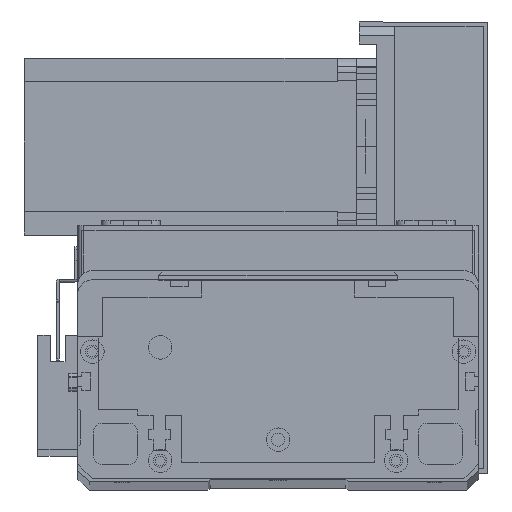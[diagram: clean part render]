
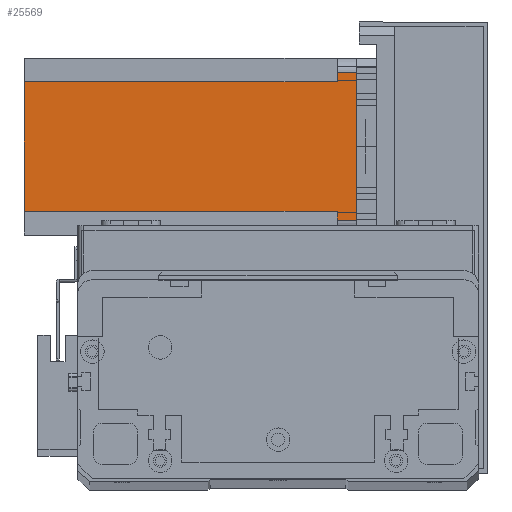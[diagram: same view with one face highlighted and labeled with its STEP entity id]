
A CAD part, top view. The second image highlights one B-rep face of the part: STEP entity #25569.
In plain terms, the highlighted planar face has unit normal (0, 0, 1) as drawn and (0, 1, 0) by its records, which use the part's own axes.
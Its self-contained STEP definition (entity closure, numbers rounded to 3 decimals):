
#785 = CARTESIAN_POINT ( 'NONE',  ( 52., 60., -112.5 ) ) ;
#1102 = CARTESIAN_POINT ( 'NONE',  ( 55., 60., -6.5 ) ) ;
#1265 = CARTESIAN_POINT ( 'NONE',  ( 8., 60., -6.5 ) ) ;
#1338 = CARTESIAN_POINT ( 'NONE',  ( 0., 60., -112.5 ) ) ;
#1579 = DIRECTION ( 'NONE',  ( 0., 0., 1. ) ) ;
#1829 = VECTOR ( 'NONE', #24005, 1000. ) ;
#2341 = LINE ( 'NONE', #1338, #26114 ) ;
#2658 = CARTESIAN_POINT ( 'NONE',  ( 8., 60., -6.5 ) ) ;
#3211 = VERTEX_POINT ( 'NONE', #19629 ) ;
#3345 = LINE ( 'NONE', #23504, #1829 ) ;
#3482 = PLANE ( 'NONE',  #29278 ) ;
#4555 = ORIENTED_EDGE ( 'NONE', *, *, #16049, .T. ) ;
#4705 = VERTEX_POINT ( 'NONE', #25021 ) ;
#5021 = ORIENTED_EDGE ( 'NONE', *, *, #15726, .T. ) ;
#5078 = DIRECTION ( 'NONE',  ( -1., 0., 0. ) ) ;
#5333 = LINE ( 'NONE', #2658, #22929 ) ;
#6528 = VERTEX_POINT ( 'NONE', #23855 ) ;
#6696 = CARTESIAN_POINT ( 'NONE',  ( 52., 60., -6.5 ) ) ;
#6838 = DIRECTION ( 'NONE',  ( 1., 0., 0. ) ) ;
#7624 = VECTOR ( 'NONE', #11216, 1000. ) ;
#8026 = CARTESIAN_POINT ( 'NONE',  ( 5., 60., -6.5 ) ) ;
#8407 = ORIENTED_EDGE ( 'NONE', *, *, #9552, .F. ) ;
#9336 = DIRECTION ( 'NONE',  ( 0., 0., -1. ) ) ;
#9552 = EDGE_CURVE ( 'NONE', #13958, #11071, #3345, .T. ) ;
#9846 = VECTOR ( 'NONE', #9336, 1000. ) ;
#10085 = VERTEX_POINT ( 'NONE', #1265 ) ;
#11071 = VERTEX_POINT ( 'NONE', #27241 ) ;
#11216 = DIRECTION ( 'NONE',  ( 0., 0., 1. ) ) ;
#11809 = ORIENTED_EDGE ( 'NONE', *, *, #15340, .F. ) ;
#12888 = DIRECTION ( 'NONE',  ( 0., 0., -1. ) ) ;
#13035 = CARTESIAN_POINT ( 'NONE',  ( 55., 60., -112.5 ) ) ;
#13058 = DIRECTION ( 'NONE',  ( 0., 1., 0. ) ) ;
#13394 = ORIENTED_EDGE ( 'NONE', *, *, #16430, .T. ) ;
#13756 = LINE ( 'NONE', #13035, #19035 ) ;
#13765 = LINE ( 'NONE', #22470, #7624 ) ;
#13958 = VERTEX_POINT ( 'NONE', #23028 ) ;
#14569 = EDGE_CURVE ( 'NONE', #13958, #20991, #13756, .T. ) ;
#14973 = EDGE_CURVE ( 'NONE', #3211, #20991, #21075, .T. ) ;
#15243 = CARTESIAN_POINT ( 'NONE',  ( 0., 60., -112.5 ) ) ;
#15340 = EDGE_CURVE ( 'NONE', #4705, #3211, #23906, .T. ) ;
#15726 = EDGE_CURVE ( 'NONE', #4705, #6528, #2341, .T. ) ;
#15888 = EDGE_CURVE ( 'NONE', #10085, #6528, #27173, .T. ) ;
#16049 = EDGE_CURVE ( 'NONE', #10085, #20167, #5333, .T. ) ;
#16430 = EDGE_CURVE ( 'NONE', #20167, #11071, #13765, .T. ) ;
#17250 = VECTOR ( 'NONE', #1579, 1000. ) ;
#17979 = ORIENTED_EDGE ( 'NONE', *, *, #14569, .T. ) ;
#18408 = EDGE_LOOP ( 'NONE', ( #8407, #17979, #27021, #11809, #5021, #18453, #4555, #13394 ) ) ;
#18453 = ORIENTED_EDGE ( 'NONE', *, *, #15888, .F. ) ;
#19035 = VECTOR ( 'NONE', #12888, 1000. ) ;
#19629 = CARTESIAN_POINT ( 'NONE',  ( 52., 60., -6.5 ) ) ;
#20167 = VERTEX_POINT ( 'NONE', #8026 ) ;
#20879 = FACE_OUTER_BOUND ( 'NONE', #18408, .T. ) ;
#20991 = VERTEX_POINT ( 'NONE', #1102 ) ;
#21075 = LINE ( 'NONE', #6696, #28493 ) ;
#22208 = DIRECTION ( 'NONE',  ( -1., 0., 0. ) ) ;
#22470 = CARTESIAN_POINT ( 'NONE',  ( 5., 60., -112.5 ) ) ;
#22879 = CARTESIAN_POINT ( 'NONE',  ( 8., 60., -112.5 ) ) ;
#22929 = VECTOR ( 'NONE', #5078, 1000. ) ;
#23028 = CARTESIAN_POINT ( 'NONE',  ( 55., 60., 0. ) ) ;
#23504 = CARTESIAN_POINT ( 'NONE',  ( 0., 60., 0. ) ) ;
#23855 = CARTESIAN_POINT ( 'NONE',  ( 8., 60., -112.5 ) ) ;
#23906 = LINE ( 'NONE', #785, #17250 ) ;
#24005 = DIRECTION ( 'NONE',  ( -1., 0., 0. ) ) ;
#25021 = CARTESIAN_POINT ( 'NONE',  ( 52., 60., -112.5 ) ) ;
#25569 = ADVANCED_FACE ( 'NONE', ( #20879 ), #3482, .T. ) ;
#26114 = VECTOR ( 'NONE', #22208, 1000. ) ;
#27021 = ORIENTED_EDGE ( 'NONE', *, *, #14973, .F. ) ;
#27173 = LINE ( 'NONE', #22879, #9846 ) ;
#27241 = CARTESIAN_POINT ( 'NONE',  ( 5., 60., 0. ) ) ;
#28493 = VECTOR ( 'NONE', #6838, 1000. ) ;
#28796 = DIRECTION ( 'NONE',  ( 0., 0., 1. ) ) ;
#29278 = AXIS2_PLACEMENT_3D ( 'NONE', #15243, #13058, #28796 ) ;
